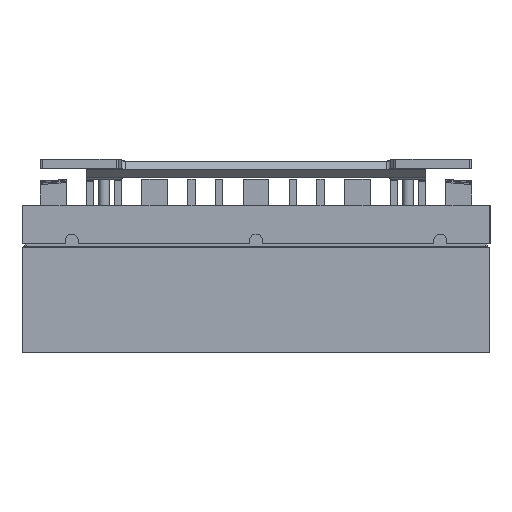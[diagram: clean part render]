
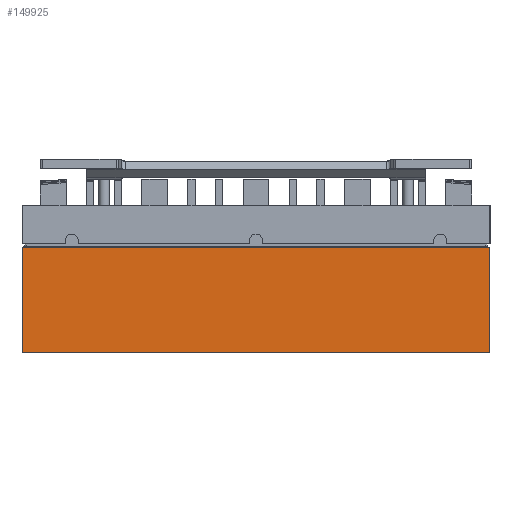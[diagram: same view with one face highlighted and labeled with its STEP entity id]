
A CAD part, front view. The second image highlights one B-rep face of the part: STEP entity #149925.
In plain terms, the highlighted planar face has unit normal (0, -1, 0).
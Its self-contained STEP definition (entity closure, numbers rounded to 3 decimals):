
#7066=PLANE('',#159735);
#21105=FACE_OUTER_BOUND('',#29073,.T.);
#29073=EDGE_LOOP('',(#127903,#127904,#127905,#127906));
#34762=LINE('',#208565,#51413);
#43388=LINE('',#239228,#60039);
#43397=LINE('',#239243,#60048);
#43413=LINE('',#239273,#60064);
#51413=VECTOR('',#168422,10.);
#60039=VECTOR('',#187158,10.);
#60048=VECTOR('',#187177,10.);
#60064=VECTOR('',#187217,10.);
#71152=VERTEX_POINT('',#208562);
#71153=VERTEX_POINT('',#208564);
#78236=VERTEX_POINT('',#239227);
#78237=VERTEX_POINT('',#239241);
#84919=EDGE_CURVE('',#71153,#71152,#34762,.T.);
#95827=EDGE_CURVE('',#78236,#71153,#43388,.T.);
#95836=EDGE_CURVE('',#71152,#78237,#43397,.T.);
#95853=EDGE_CURVE('',#78237,#78236,#43413,.T.);
#127903=ORIENTED_EDGE('',*,*,#84919,.T.);
#127904=ORIENTED_EDGE('',*,*,#95836,.T.);
#127905=ORIENTED_EDGE('',*,*,#95853,.T.);
#127906=ORIENTED_EDGE('',*,*,#95827,.T.);
#149925=ADVANCED_FACE('',(#21105),#7066,.T.);
#159735=AXIS2_PLACEMENT_3D('',#239272,#187215,#187216);
#168422=DIRECTION('',(-1.,0.,0.));
#187158=DIRECTION('',(0.,0.,1.));
#187177=DIRECTION('',(0.,0.,-1.));
#187215=DIRECTION('center_axis',(0.,-1.,0.));
#187216=DIRECTION('ref_axis',(0.,0.,
-1.));
#187217=DIRECTION('',(1.,0.,0.));
#208562=CARTESIAN_POINT('',(-131.852,-100.676,-7.53));
#208564=CARTESIAN_POINT('',(-4.852,-100.676,-7.53));
#208565=CARTESIAN_POINT('',(-100.257,-100.676,-7.53));
#239227=CARTESIAN_POINT('',(-4.852,-100.676,-36.13));
#239228=CARTESIAN_POINT('',(-4.852,-100.676,-21.38));
#239241=CARTESIAN_POINT('',(-131.852,-100.676,-36.13));
#239243=CARTESIAN_POINT('',(-131.852,-100.676,-21.38));
#239272=CARTESIAN_POINT('Origin',(-131.852,-100.676,-21.38));
#239273=CARTESIAN_POINT('',(-131.852,-100.676,-36.13));
